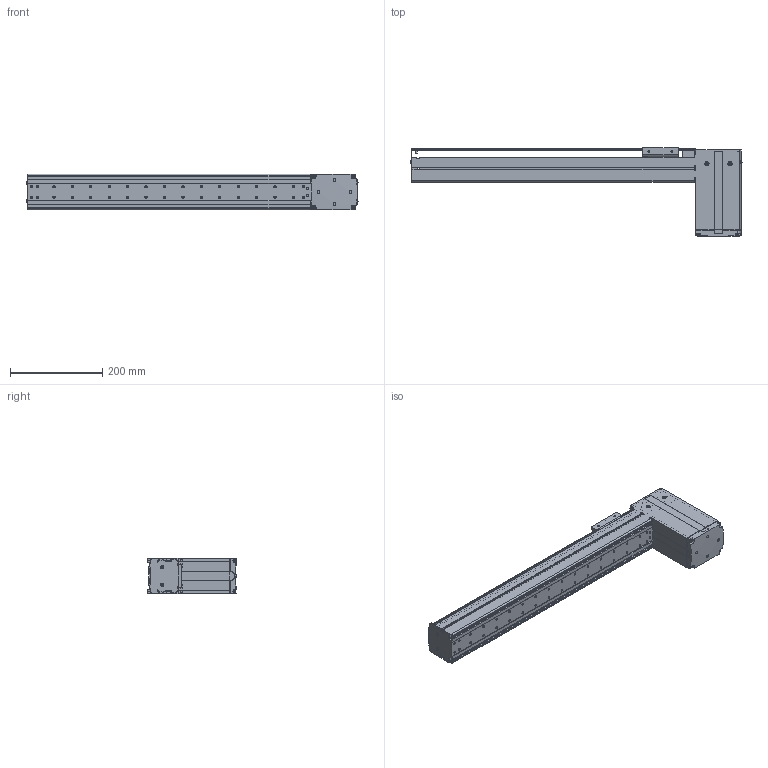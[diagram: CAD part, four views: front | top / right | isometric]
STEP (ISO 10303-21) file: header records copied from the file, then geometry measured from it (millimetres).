
FILE_DESCRIPTION((''),'2;1');
FILE_NAME('BE10_-BU-S_N-45_IGS_PRT','2017-06-18T',(' '),(''),'PRO/ENGINEER BY PARAMETRIC TECHNOLOGY CORPORATION, 2015030','PRO/ENGINEER BY PARAMETRIC TECHNOLOGY CORPORATION, 2015030','');
FILE_SCHEMA(('CONFIG_CONTROL_DESIGN'));
Length unit declared in the file: millimetre
Products named in the file (1): BE10_-BU-S_N-45_IGS_PRT
Bounding box: 720.8 x 192.72 x 78 mm (x, y, z)
Volume: 980407.7 mm3; surface area: 699036.2 mm2
Topology: 3 solids, 110 shells, 1861 faces, 5055 edges, 3315 vertices
Faces by surface type: plane 900, cylinder 800, cone 119, sphere 21, torus 19, bspline 2
Entity records: 60024 total; most frequent: CARTESIAN_POINT 12038, DIRECTION 10209, ORIENTED_EDGE 9626, EDGE_CURVE 5001, AXIS2_PLACEMENT_3D 3609, VERTEX_POINT 3315, VECTOR 2991, LINE 2991
